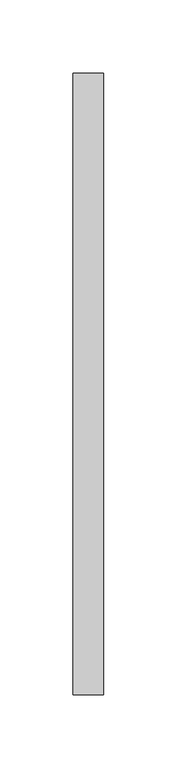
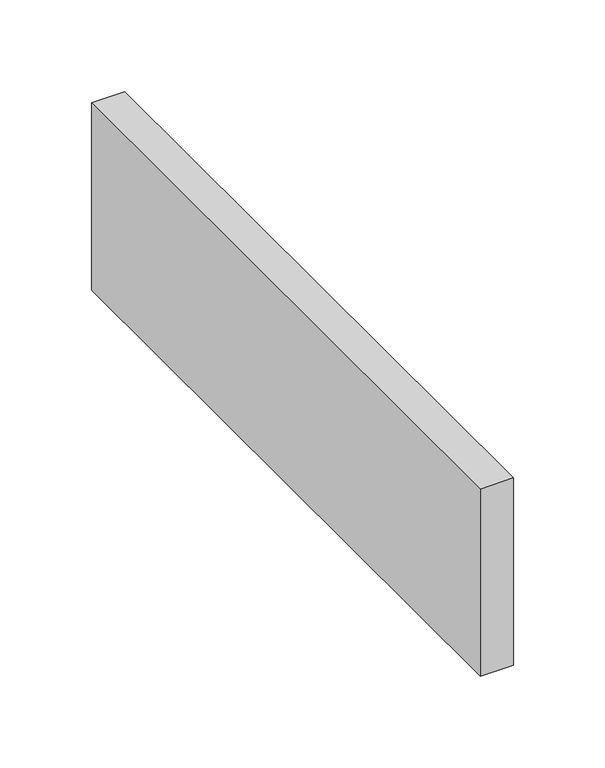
"""IFC4 building model written with IfcOpenShell, lengths in millimetres: duct fitting geometry, MEP_15.03 Injerto Conducte : Mínimo."""

from ifc_helpers import new_model, si_unit, frame, origin, place, context, project, spatial, polyline, outline, extrude, source, transform, mapped, element, save


def duct_fitting_78026b1f(model_context):
    return source(origin(), model_context, "Body", "SweptSolid", [
        extrude(outline(polyline([(-6.096, 212.5), (15.0, 212.5), (15.0, -212.5), (-6.096, -212.5), (-6.096, 212.5)])), frame((0.0, 0.0, -62.5), z_axis=(0.0, 0.0, 1.0), x_axis=(1.0, 0.0, 0.0)), (0.0, 0.0, 1.0), 125.0),
    ])


if __name__ == "__main__":
    model = new_model("IFC4")
    model_context = context("Model", 3, world=origin())
    ifc_project = project(units=[si_unit("LENGTHUNIT", "METRE", prefix="MILLI")], contexts=[model_context])
    site = spatial("IfcSite", under=ifc_project)
    building = spatial("IfcBuilding", under=site)
    placement = place(None, origin())
    duct_fitting_shape = duct_fitting_78026b1f(model_context)
    element("IfcDuctFitting", 1, ObjectType="MEP_15.03 Injerto Conducte : Mínimo", at=placement, inside=building, context=model_context, shape_type="MappedRepresentation", body=[
        mapped(duct_fitting_shape, transform((0.0, 0.0, 0.0), x_axis=(1.0, 0.0, 0.0), y_axis=(0.0, 1.0, 0.0), z_axis=(0.0, 0.0, 1.0))),
    ])
    save(model, "model.ifc")
